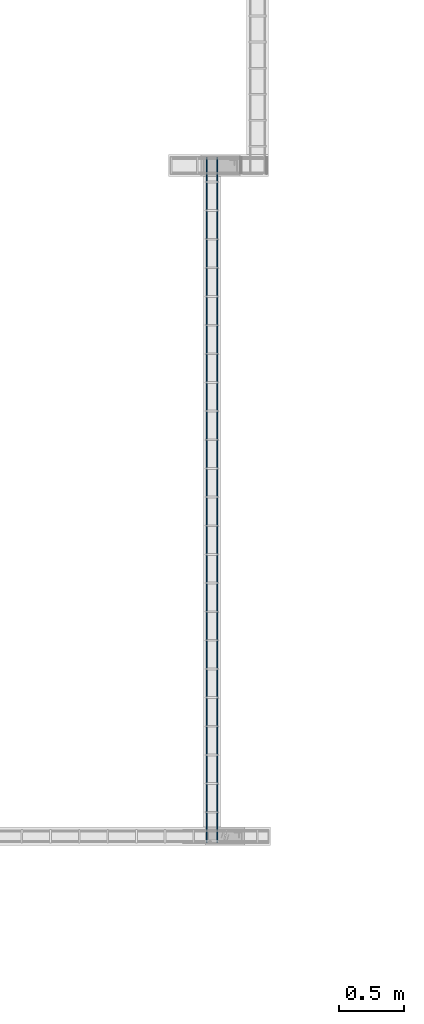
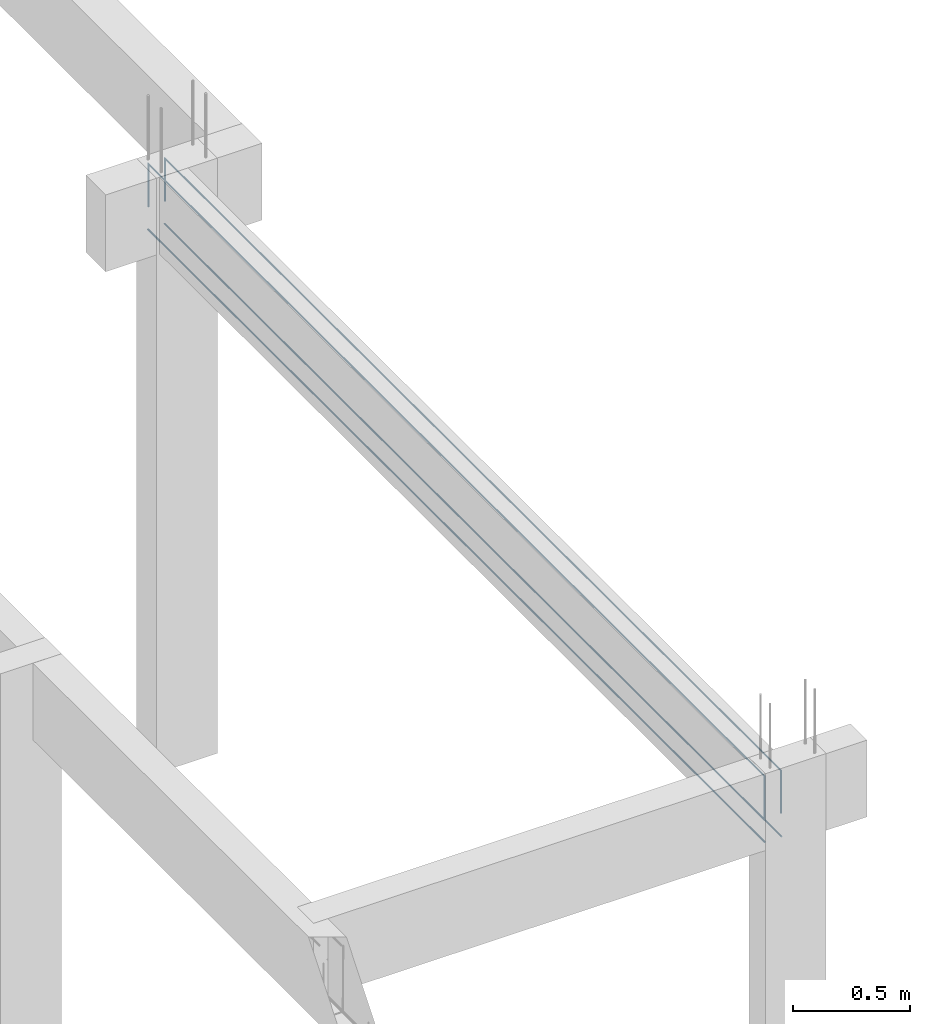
# One storey, part 116 of 236: 4 reinforcing bars.
"""IFC4 building model written with IfcOpenShell, lengths in centimetres."""

from ifc_helpers import new_model, entity, si_unit, derived_unit, frame, origin_with_axes, place, context, project, spatial, element, save


model = new_model("IFC4")

# Units and contexts
model_context = context("Model", 3, precision=1e-05, world=origin_with_axes(), identifier="Body")
ifc_project = project(units=[si_unit("LENGTHUNIT", "METRE", prefix="CENTI"), si_unit("VOLUMEUNIT", "CUBIC_METRE"), si_unit("AREAUNIT", "SQUARE_METRE"), si_unit("POWERUNIT", "WATT"), si_unit("LUMINOUSFLUXUNIT", "LUMEN"), si_unit("ELECTRICCURRENTUNIT", "AMPERE"), si_unit("PRESSUREUNIT", "PASCAL", prefix="KILO"), si_unit("MASSUNIT", "GRAM", prefix="KILO"), si_unit("PLANEANGLEUNIT", "RADIAN"), derived_unit("VOLUMETRICFLOWRATEUNIT", [(si_unit("LENGTHUNIT", "METRE"), 3), (si_unit("TIMEUNIT", "SECOND"), -1)])], contexts=[model_context])

# Site, building, storey
site_placement = place(None, frame((-4000.0, 0.0, 0.0), z_axis=(0.0, 0.0, 1.0), x_axis=(1.0, 0.0, 0.0)))
site = spatial("IfcSite", under=ifc_project, at=site_placement, Name="PADRÃO")
building_placement = place(site_placement, frame((0.0, 0.0, -14.0)))
building = spatial("IfcBuilding", under=site, at=building_placement, Name="CRECHE PRÉ-ESCOLA TIPO 2")
placement_1 = place(building_placement, origin_with_axes())
placement_2 = place(placement_1, frame((0.0, 0.0, 30.0), z_axis=(0.0, 0.0, 1.0), x_axis=(1.0, 0.0, 0.0)))
storey_placement = place(placement_2, frame((0.0, 0.0, 310.0), z_axis=(0.0, 0.0, 1.0), x_axis=(1.0, 0.0, 0.0)))
storey = spatial("IfcBuildingStorey", under=building, at=storey_placement, Name="TERREO", CompositionType="ELEMENT", Elevation=326.0)

# Reinforcing bars
for number, where, z_axis, x_axis, name in (
    (1, (3361.9, 2943.27, -36.7), (0.0, 0.0, 1.0), (1.0, 0.0, 0.0), "V315 - Longitudinal inferior"),
    (2, (3370.1, 2943.27, -36.7), (0.0, 0.0, 1.0), (1.0, 0.0, 0.0), "V315 - Longitudinal inferior"),
):
    element("IfcReinforcingBar", number, at=place(storey_placement, frame(where, z_axis=z_axis, x_axis=x_axis)), inside=storey, Name=name, BarLength=0.0, CrossSectionArea=5.0265482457e-05, NominalDiameter=0.8, PredefinedType="MAIN", context=model_context, shape_type="AdvancedSweptSolid", body=[
        entity("IfcSweptDiskSolid", entity("IfcCompositeCurve", [entity("IfcCompositeCurveSegment", "CONTINUOUS", True, entity("IfcPolyline", [entity("IfcCartesianPoint", [0.0, -263.25, -0.4]), entity("IfcCartesianPoint", [0.0, 263.25, -0.4])]))], False), 0.4),
    ])
for number, where, z_axis, x_axis, name in (
    (3, (3361.9, 2943.27, -2.49624973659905), (0.0, 0.0, 1.0), (1.0, 0.0, 0.0), "V315 - Longitudinal superior"),
    (4, (3370.1, 2943.27, -2.49624973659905), (0.0, 0.0, 1.0), (1.0, 0.0, 0.0), "V315 - Longitudinal superior"),
):
    element("IfcReinforcingBar", number, at=place(storey_placement, frame(where, z_axis=z_axis, x_axis=x_axis)), inside=storey, Name=name, BarLength=0.0, CrossSectionArea=5.0265482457e-05, NominalDiameter=0.8, PredefinedType="MAIN", context=model_context, shape_type="AdvancedSweptSolid", body=[
        entity("IfcSweptDiskSolid", entity("IfcCompositeCurve", [entity("IfcCompositeCurveSegment", "CONTINUOUS", True, entity("IfcPolyline", [entity("IfcCartesianPoint", [0.0, -262.85, -22.7014629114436]), entity("IfcCartesianPoint", [0.0, -262.85, -0.403750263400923])])), entity("IfcCompositeCurveSegment", "CONTINUOUS", True, entity("IfcPolyline", [entity("IfcCartesianPoint", [0.0, -262.85, -0.403750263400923]), entity("IfcCartesianPoint", [0.0, 262.85, -0.403750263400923])])), entity("IfcCompositeCurveSegment", "CONTINUOUS", True, entity("IfcPolyline", [entity("IfcCartesianPoint", [0.0, 262.85, -0.403750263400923]), entity("IfcCartesianPoint", [0.0, 262.85, -22.7014629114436])]))], False), 0.4),
    ])

save(model, "model.ifc")
